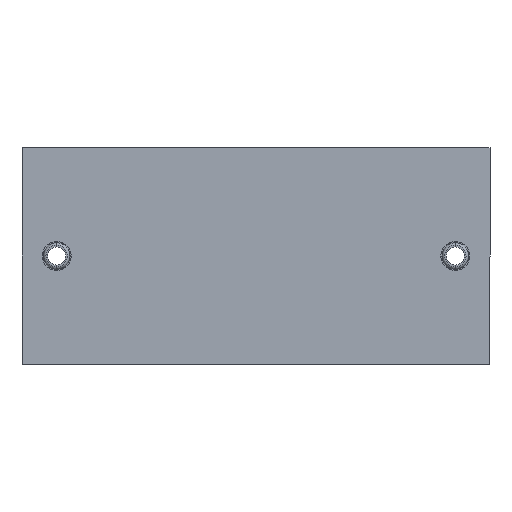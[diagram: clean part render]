
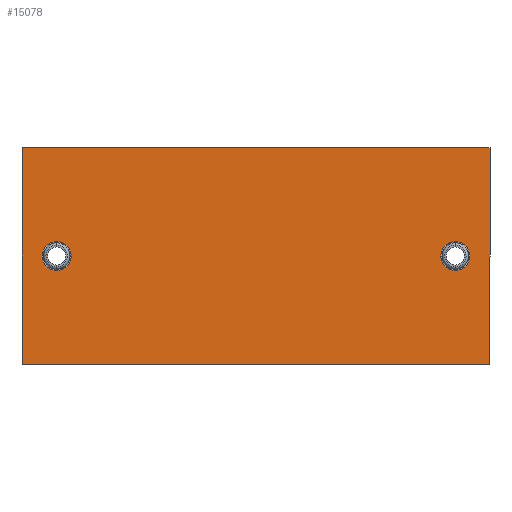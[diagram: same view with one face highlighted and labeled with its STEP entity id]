
A CAD part, front view. The second image highlights one B-rep face of the part: STEP entity #15078.
In plain terms, the highlighted planar face has unit normal (0, -1, 0).
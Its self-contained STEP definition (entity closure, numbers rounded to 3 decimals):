
#721 = CARTESIAN_POINT ( 'NONE',  ( 100., 0., -25. ) ) ;
#866 = DIRECTION ( 'NONE',  ( 0., -1., 0. ) ) ;
#1023 = DIRECTION ( 'NONE',  ( 0., 0., -1. ) ) ;
#1063 = EDGE_CURVE ( 'NONE', #40483, #21317, #20075, .T. ) ;
#1696 = VERTEX_POINT ( 'NONE', #24340 ) ;
#2281 = ORIENTED_EDGE ( 'NONE', *, *, #12153, .F. ) ;
#2881 = DIRECTION ( 'NONE',  ( 0., -1., 0. ) ) ;
#3073 = CARTESIAN_POINT ( 'NONE',  ( 100., 0., -25. ) ) ;
#3824 = CARTESIAN_POINT ( 'NONE',  ( 0., 0., 0. ) ) ;
#3830 = DIRECTION ( 'NONE',  ( 0., 0., 1. ) ) ;
#4097 = AXIS2_PLACEMENT_3D ( 'NONE', #721, #26130, #4370 ) ;
#4277 = CARTESIAN_POINT ( 'NONE',  ( 0., 0., -50. ) ) ;
#4370 = DIRECTION ( 'NONE',  ( 0., 0., -1. ) ) ;
#4993 = VERTEX_POINT ( 'NONE', #17288 ) ;
#6726 = LINE ( 'NONE', #6854, #23778 ) ;
#6762 = DIRECTION ( 'NONE',  ( 0., 0., -1. ) ) ;
#6854 = CARTESIAN_POINT ( 'NONE',  ( 0., 0., 0. ) ) ;
#6879 = VECTOR ( 'NONE', #7936, 1000. ) ;
#7936 = DIRECTION ( 'NONE',  ( -1., 0., 0. ) ) ;
#10582 = EDGE_LOOP ( 'NONE', ( #21360, #34982 ) ) ;
#10763 = FACE_OUTER_BOUND ( 'NONE', #20408, .T. ) ;
#12153 = EDGE_CURVE ( 'NONE', #1696, #42541, #44474, .T. ) ;
#12193 = ORIENTED_EDGE ( 'NONE', *, *, #40419, .F. ) ;
#12700 = DIRECTION ( 'NONE',  ( 0., -1., 0. ) ) ;
#12900 = AXIS2_PLACEMENT_3D ( 'NONE', #24678, #2881, #28340 ) ;
#13025 = FACE_BOUND ( 'NONE', #10582, .T. ) ;
#14937 = AXIS2_PLACEMENT_3D ( 'NONE', #34543, #12700, #38199 ) ;
#14962 = CARTESIAN_POINT ( 'NONE',  ( 0., 0., 0. ) ) ;
#15078 = ADVANCED_FACE ( 'NONE', ( #30134, #13025, #10763 ), #37122, .T. ) ;
#15133 = EDGE_CURVE ( 'NONE', #44715, #1696, #19318, .T. ) ;
#15155 = AXIS2_PLACEMENT_3D ( 'NONE', #18974, #866, #26288 ) ;
#15438 = CARTESIAN_POINT ( 'NONE',  ( 100., 0., -28.35 ) ) ;
#15870 = ORIENTED_EDGE ( 'NONE', *, *, #24170, .F. ) ;
#16934 = EDGE_CURVE ( 'NONE', #4993, #32270, #36127, .T. ) ;
#17288 = CARTESIAN_POINT ( 'NONE',  ( 8., 0., -28.35 ) ) ;
#17694 = AXIS2_PLACEMENT_3D ( 'NONE', #3073, #28544, #6762 ) ;
#17801 = CARTESIAN_POINT ( 'NONE',  ( 8., 0., -21.65 ) ) ;
#18974 = CARTESIAN_POINT ( 'NONE',  ( 0., 0., 0. ) ) ;
#19318 = LINE ( 'NONE', #29963, #37545 ) ;
#20075 = CIRCLE ( 'NONE', #17694, 3.35 ) ;
#20408 = EDGE_LOOP ( 'NONE', ( #12193, #2281, #34210, #15870 ) ) ;
#21277 = EDGE_LOOP ( 'NONE', ( #31706, #24003 ) ) ;
#21317 = VERTEX_POINT ( 'NONE', #31375 ) ;
#21360 = ORIENTED_EDGE ( 'NONE', *, *, #16934, .F. ) ;
#22533 = CARTESIAN_POINT ( 'NONE',  ( 0., 0., -50. ) ) ;
#22895 = LINE ( 'NONE', #14962, #42300 ) ;
#22909 = EDGE_CURVE ( 'NONE', #21317, #40483, #32534, .T. ) ;
#23778 = VECTOR ( 'NONE', #35956, 1000. ) ;
#24003 = ORIENTED_EDGE ( 'NONE', *, *, #22909, .T. ) ;
#24170 = EDGE_CURVE ( 'NONE', #38618, #44715, #6726, .T. ) ;
#24340 = CARTESIAN_POINT ( 'NONE',  ( 108., 0., -50. ) ) ;
#24678 = CARTESIAN_POINT ( 'NONE',  ( 8., 0., -25. ) ) ;
#25815 = CARTESIAN_POINT ( 'NONE',  ( 108., 0., 0. ) ) ;
#26130 = DIRECTION ( 'NONE',  ( 0., 1., 0. ) ) ;
#26288 = DIRECTION ( 'NONE',  ( 0., 0., -1. ) ) ;
#28340 = DIRECTION ( 'NONE',  ( 0., 0., -1. ) ) ;
#28544 = DIRECTION ( 'NONE',  ( 0., 1., 0. ) ) ;
#29963 = CARTESIAN_POINT ( 'NONE',  ( 108., 0., 0. ) ) ;
#30134 = FACE_BOUND ( 'NONE', #21277, .T. ) ;
#31375 = CARTESIAN_POINT ( 'NONE',  ( 100., 0., -21.65 ) ) ;
#31706 = ORIENTED_EDGE ( 'NONE', *, *, #1063, .T. ) ;
#32270 = VERTEX_POINT ( 'NONE', #17801 ) ;
#32534 = CIRCLE ( 'NONE', #4097, 3.35 ) ;
#34210 = ORIENTED_EDGE ( 'NONE', *, *, #15133, .F. ) ;
#34543 = CARTESIAN_POINT ( 'NONE',  ( 8., 0., -25. ) ) ;
#34982 = ORIENTED_EDGE ( 'NONE', *, *, #38476, .F. ) ;
#35956 = DIRECTION ( 'NONE',  ( 1., 0., 0. ) ) ;
#36127 = CIRCLE ( 'NONE', #14937, 3.35 ) ;
#37122 = PLANE ( 'NONE',  #15155 ) ;
#37530 = CIRCLE ( 'NONE', #12900, 3.35 ) ;
#37545 = VECTOR ( 'NONE', #1023, 1000. ) ;
#38199 = DIRECTION ( 'NONE',  ( 0., 0., -1. ) ) ;
#38476 = EDGE_CURVE ( 'NONE', #32270, #4993, #37530, .T. ) ;
#38618 = VERTEX_POINT ( 'NONE', #3824 ) ;
#40419 = EDGE_CURVE ( 'NONE', #42541, #38618, #22895, .T. ) ;
#40483 = VERTEX_POINT ( 'NONE', #15438 ) ;
#42300 = VECTOR ( 'NONE', #3830, 1000. ) ;
#42541 = VERTEX_POINT ( 'NONE', #22533 ) ;
#44474 = LINE ( 'NONE', #4277, #6879 ) ;
#44715 = VERTEX_POINT ( 'NONE', #25815 ) ;
